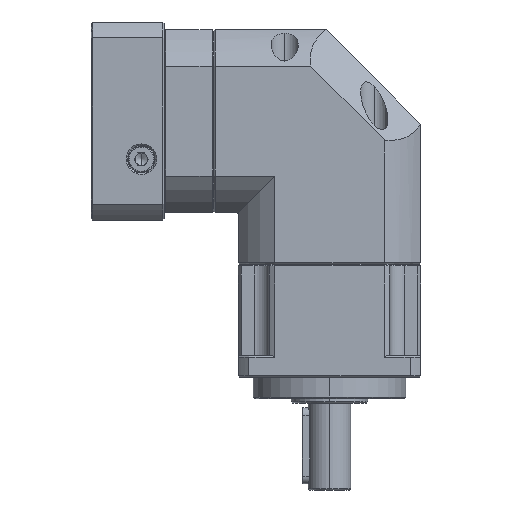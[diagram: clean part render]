
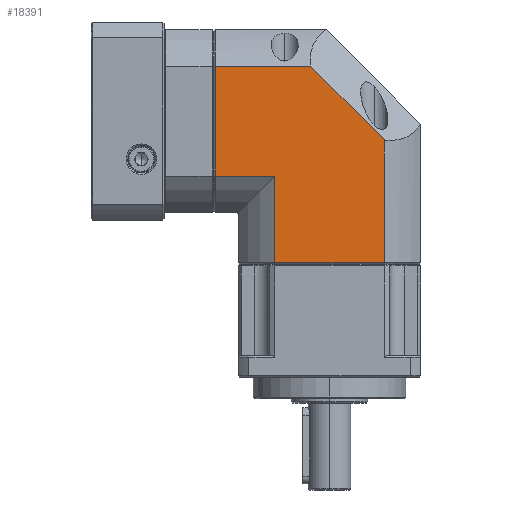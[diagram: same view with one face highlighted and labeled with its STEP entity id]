
A CAD part, left-side view. The second image highlights one B-rep face of the part: STEP entity #18391.
In plain terms, the highlighted planar face has unit normal (-1, 0, 0).
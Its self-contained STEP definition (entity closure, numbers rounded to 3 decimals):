
#1533 = LINE ( 'NONE', #48720, #73911 ) ;
#1579 = EDGE_LOOP ( 'NONE', ( #6711, #73529, #26839, #56577, #35716, #77540, #77365 ) ) ;
#2533 = AXIS2_PLACEMENT_3D ( 'NONE', #21855, #28003, #68717 ) ;
#3025 = DIRECTION ( 'NONE',  ( 0., 0., 1. ) ) ;
#3621 = EDGE_CURVE ( 'NONE', #4286, #52057, #1533, .T. ) ;
#3802 = EDGE_CURVE ( 'NONE', #52057, #70704, #64521, .T. ) ;
#4286 = VERTEX_POINT ( 'NONE', #74908 ) ;
#5843 = LINE ( 'NONE', #62200, #39336 ) ;
#6215 = EDGE_CURVE ( 'NONE', #15996, #78715, #50363, .T. ) ;
#6711 = ORIENTED_EDGE ( 'NONE', *, *, #7755, .T. ) ;
#7755 = EDGE_CURVE ( 'NONE', #67060, #43735, #57400, .T. ) ;
#9531 = VECTOR ( 'NONE', #68277, 1000. ) ;
#10848 = CARTESIAN_POINT ( 'NONE',  ( 0., 30., 44.5 ) ) ;
#12853 = FACE_OUTER_BOUND ( 'NONE', #1579, .T. ) ;
#13405 = CARTESIAN_POINT ( 'NONE',  ( 0., 36.17, 109.028 ) ) ;
#15996 = VERTEX_POINT ( 'NONE', #71184 ) ;
#16203 = DIRECTION ( 'NONE',  ( 0., 0., 1. ) ) ;
#17198 = LINE ( 'NONE', #42803, #20381 ) ;
#18391 = ADVANCED_FACE ( 'NONE', ( #12853 ), #54323, .F. ) ;
#20381 = VECTOR ( 'NONE', #3025, 1000. ) ;
#21855 = CARTESIAN_POINT ( 'NONE',  ( 0., 68., 44. ) ) ;
#26839 = ORIENTED_EDGE ( 'NONE', *, *, #3802, .F. ) ;
#28003 = DIRECTION ( 'NONE',  ( 1., 0., 0. ) ) ;
#28354 = EDGE_CURVE ( 'NONE', #78715, #4286, #17198, .T. ) ;
#33974 = DIRECTION ( 'NONE',  ( 0., -0.707, -0.707 ) ) ;
#34710 = EDGE_CURVE ( 'NONE', #67060, #15996, #5843, .T. ) ;
#35558 = CARTESIAN_POINT ( 'NONE',  ( 0., 48.028, 44.5 ) ) ;
#35716 = ORIENTED_EDGE ( 'NONE', *, *, #28354, .F. ) ;
#39336 = VECTOR ( 'NONE', #16203, 1000. ) ;
#42803 = CARTESIAN_POINT ( 'NONE',  ( 0., 67.5, 44. ) ) ;
#43735 = VERTEX_POINT ( 'NONE', #45541 ) ;
#45541 = CARTESIAN_POINT ( 'NONE',  ( 0., 11.972, 44.5 ) ) ;
#48609 = CARTESIAN_POINT ( 'NONE',  ( 0., 36.17, 109.028 ) ) ;
#48720 = CARTESIAN_POINT ( 'NONE',  ( 0., 68., 109.028 ) ) ;
#50363 = LINE ( 'NONE', #82000, #9531 ) ;
#52057 = VERTEX_POINT ( 'NONE', #13405 ) ;
#54323 = PLANE ( 'NONE',  #2533 ) ;
#56577 = ORIENTED_EDGE ( 'NONE', *, *, #3621, .F. ) ;
#57400 = LINE ( 'NONE', #10848, #78271 ) ;
#59164 = DIRECTION ( 'NONE',  ( 0., -1., 0. ) ) ;
#62200 = CARTESIAN_POINT ( 'NONE',  ( 0., 48.028, 44. ) ) ;
#64521 = LINE ( 'NONE', #48609, #72907 ) ;
#66347 = VECTOR ( 'NONE', #84840, 1000. ) ;
#66884 = CARTESIAN_POINT ( 'NONE',  ( 0., 67.5, 72.972 ) ) ;
#67060 = VERTEX_POINT ( 'NONE', #35558 ) ;
#68277 = DIRECTION ( 'NONE',  ( 0., 1., 0. ) ) ;
#68717 = DIRECTION ( 'NONE',  ( 0., 0., 1. ) ) ;
#70704 = VERTEX_POINT ( 'NONE', #75996 ) ;
#71184 = CARTESIAN_POINT ( 'NONE',  ( 0., 48.028, 72.972 ) ) ;
#71692 = CARTESIAN_POINT ( 'NONE',  ( 0., 11.972, 121. ) ) ;
#72907 = VECTOR ( 'NONE', #33974, 1000. ) ;
#73529 = ORIENTED_EDGE ( 'NONE', *, *, #75485, .F. ) ;
#73911 = VECTOR ( 'NONE', #74555, 1000. ) ;
#74555 = DIRECTION ( 'NONE',  ( 0., -1., 0. ) ) ;
#74908 = CARTESIAN_POINT ( 'NONE',  ( 0., 67.5, 109.028 ) ) ;
#75485 = EDGE_CURVE ( 'NONE', #70704, #43735, #75754, .T. ) ;
#75754 = LINE ( 'NONE', #71692, #66347 ) ;
#75996 = CARTESIAN_POINT ( 'NONE',  ( 0., 11.972, 84.83 ) ) ;
#77365 = ORIENTED_EDGE ( 'NONE', *, *, #34710, .F. ) ;
#77540 = ORIENTED_EDGE ( 'NONE', *, *, #6215, .F. ) ;
#78271 = VECTOR ( 'NONE', #59164, 1000. ) ;
#78715 = VERTEX_POINT ( 'NONE', #66884 ) ;
#82000 = CARTESIAN_POINT ( 'NONE',  ( 0., 68., 72.972 ) ) ;
#84840 = DIRECTION ( 'NONE',  ( 0., 0., -1. ) ) ;
